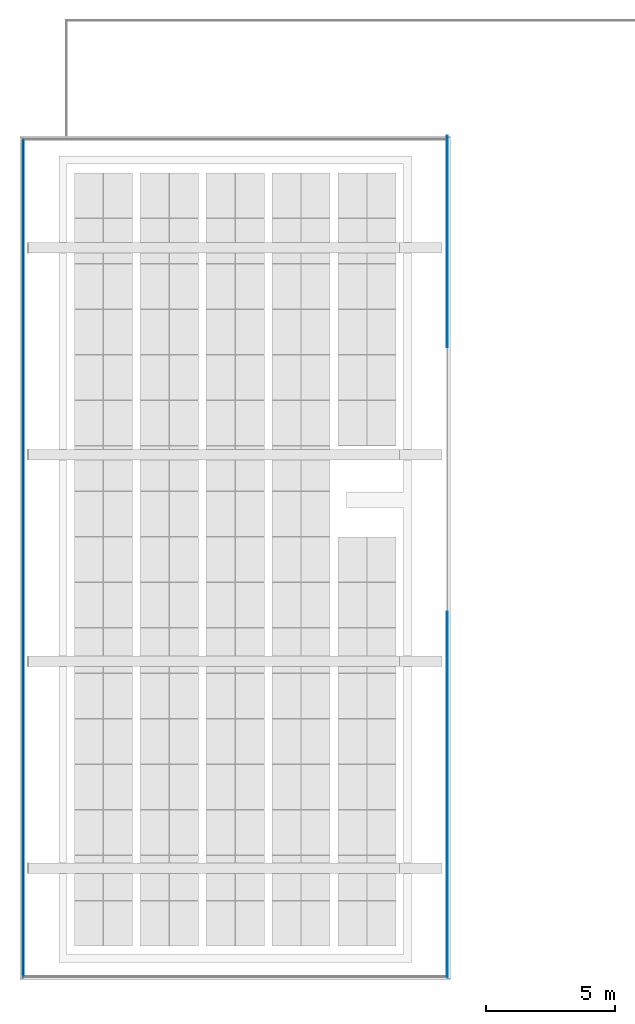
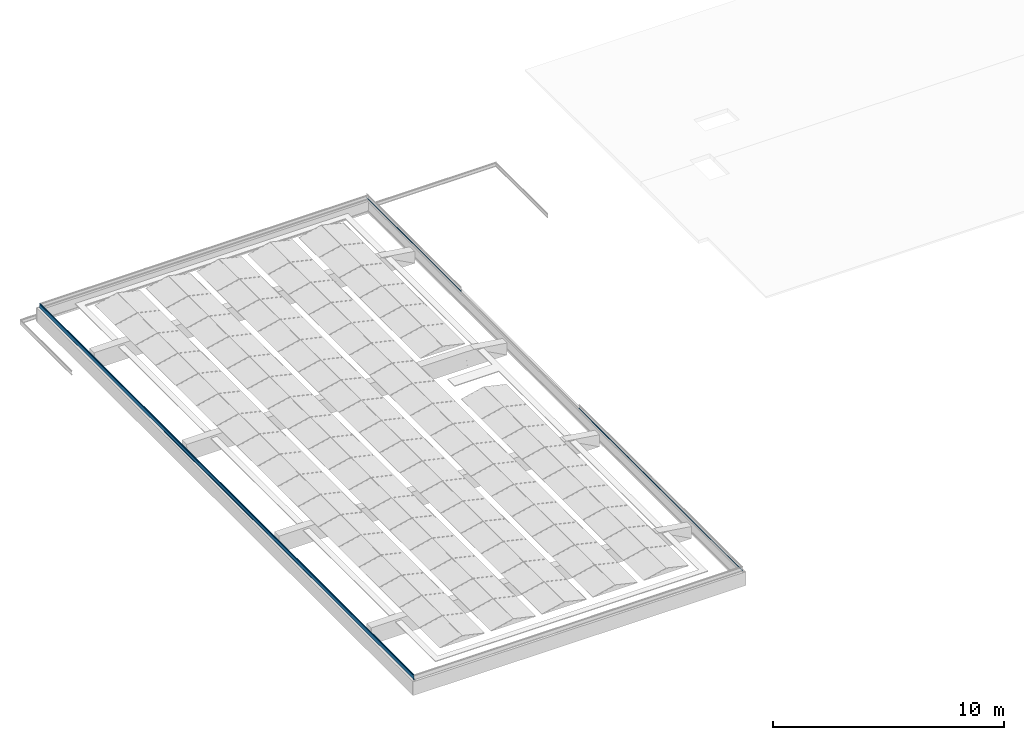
# One storey, part 10 of 25: 5 building element parts, 3 elements without a shape of their own.
"""IFC2X3 building model written with IfcOpenShell, lengths in millimetres."""

from ifc_helpers import new_model, entity, si_unit, converted_unit, derived_unit, money_unit, direction, frame, origin_with_axes, place, context, subcontext, project, spatial, faceted_brep, material, type_object, element, aggregate, save


model = new_model("IFC2X3")

# Units and contexts
model_context = context("Model", 3, precision=0.01, world=origin_with_axes(), true_north=direction((0.0, 1.0)))
body_context = subcontext(model_context, "Body", "Model", "MODEL_VIEW")
ifc_project = project(units=[si_unit("LENGTHUNIT", "METRE", prefix="MILLI"), si_unit("AREAUNIT", "SQUARE_METRE"), si_unit("VOLUMEUNIT", "CUBIC_METRE"), converted_unit("PLANEANGLEUNIT", "DEGREE", entity("IfcPlaneAngleMeasure", 0.0174532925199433), si_unit("PLANEANGLEUNIT", "RADIAN"), dimensions=[0, 0, 0, 0, 0, 0, 0]), money_unit("EUR"), converted_unit("TIMEUNIT", "Year", entity("IfcTimeMeasure", 31557600.0), si_unit("TIMEUNIT", "SECOND"), dimensions=[0, 0, 1, 0, 0, 0, 0]), si_unit("MASSUNIT", "GRAM", prefix="KILO"), si_unit("THERMODYNAMICTEMPERATUREUNIT", "DEGREE_CELSIUS"), si_unit("LUMINOUSINTENSITYUNIT", "LUMEN"), si_unit("ENERGYUNIT", "JOULE", prefix="MEGA"), derived_unit("THERMALCONDUCTANCEUNIT", [(si_unit("POWERUNIT", "WATT"), 1), (si_unit("LENGTHUNIT", "METRE"), -1), (si_unit("THERMODYNAMICTEMPERATUREUNIT", "KELVIN"), -1)]), derived_unit("SPECIFICHEATCAPACITYUNIT", [(si_unit("ENERGYUNIT", "JOULE"), 1), (si_unit("MASSUNIT", "GRAM", prefix="KILO"), -1), (si_unit("THERMODYNAMICTEMPERATUREUNIT", "KELVIN"), -1)]), derived_unit("MASSDENSITYUNIT", [(si_unit("MASSUNIT", "GRAM", prefix="KILO"), 1), (si_unit("VOLUMEUNIT", "CUBIC_METRE"), -1)])], contexts=[model_context])

# Site, building, storey
site_placement = place(None, origin_with_axes())
site = spatial("IfcSite", under=ifc_project, at=site_placement, Name="<site naam>", CompositionType="ELEMENT")
building_placement = place(site_placement, origin_with_axes())
building = spatial("IfcBuilding", under=site, at=building_placement, Name="<Naam gebouw>", CompositionType="ELEMENT")
storey_placement = place(building_placement, frame((0.0, 0.0, 9563.0), z_axis=(0.0, 0.0, 1.0), x_axis=(1.0, 0.0, 0.0)))
storey = spatial("IfcBuildingStorey", under=building, at=storey_placement, Name="03 3e tussenverdieping", CompositionType="ELEMENT", Elevation=9563.0)

# Beam, building element part
beam_type = type_object("IfcBeamType", Name="Aluminium daktrim 45 x 250", PredefinedType="BEAM")
beam_1_placement = place(storey_placement, frame((4335.044465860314, -12327.02502410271, -1057.000005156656), z_axis=(0.0, 0.0, 1.0), x_axis=(1.0, 0.0, 0.0)))
beam_1 = element("IfcBeam", 1, at=beam_1_placement, inside=storey, type_object=beam_type, Name="47_Balk_Aluminium", ObjectType="BEAM")
ifc_material = material(Name="aluminium")
building_element_part_1_placement = place(beam_1_placement, origin_with_axes())
building_element_part_1 = element("IfcBuildingElementPart", 2, at=building_element_part_1_placement, material=ifc_material, Name="aluminium", context=body_context, shape_type="Brep", body=[
    faceted_brep([(-112.0058939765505, 14222.04448901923, 49.56563034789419), (-112.0058939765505, 14222.04448901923, 69.56564503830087), (-112.0058939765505, 112.0058939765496, 69.56564503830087), (-112.0058939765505, 112.0058939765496, 49.56563034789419), (-143.8058874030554, 14222.04448901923, 75.17284186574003), (-113.2058874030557, 14222.04448901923, 49.56563034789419), (-113.2058874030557, 14222.04448901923, 68.55872432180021), (-145.005887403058, 14222.04448901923, 74.16592230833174), (-145.005887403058, 14222.04448901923, 89.56564503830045), (-143.8058874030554, 14222.04448901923, 89.56564503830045), (-143.8058874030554, 143.8058874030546, 75.17284186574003), (-113.2058874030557, 113.2058874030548, 49.56563034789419), (-143.8058874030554, 143.8058874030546, 89.56564503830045), (-145.005887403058, 145.0058874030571, 89.56564503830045), (-145.005887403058, 145.0058874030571, 74.16592230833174), (-113.2058874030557, 113.2058874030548, 68.55872432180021)], [[[0, 1, 2, 3]], [[4, 1, 0, 5, 6, 7, 8, 9]], [[1, 4, 10, 2]], [[11, 3, 2, 10, 12, 13, 14, 15]], [[5, 0, 3, 11]], [[6, 5, 11, 15]], [[7, 6, 15, 14]], [[8, 7, 14, 13]], [[9, 8, 13, 12]], [[4, 9, 12, 10]]]),
    faceted_brep([(-143.8058874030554, 14223.0444943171, 75.17284186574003), (-112.0058939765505, 14223.0444943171, 69.56564503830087), (-112.0058939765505, 14257.0444890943, 69.56564503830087), (-143.8058874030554, 14257.0444890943, 75.17284186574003), (-112.0058939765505, 14223.0444943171, 49.56563034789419), (-143.8058874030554, 14223.0444943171, 89.56564503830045), (-145.005887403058, 14223.0444943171, 89.56564503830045), (-145.005887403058, 14223.0444943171, 74.16592230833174), (-113.2058874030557, 14223.0444943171, 68.55872432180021), (-113.2058874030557, 14223.0444943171, 49.56563034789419), (-112.0058939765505, 14257.0444890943, 49.56563034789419), (-113.2058874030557, 14257.0444890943, 49.56563034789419), (-113.2058874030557, 14257.0444890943, 68.55872432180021), (-145.005887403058, 14257.0444890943, 74.16592230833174), (-145.005887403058, 14257.0444890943, 89.56564503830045), (-143.8058874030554, 14257.0444890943, 89.56564503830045)], [[[0, 1, 2, 3]], [[4, 1, 0, 5, 6, 7, 8, 9]], [[1, 4, 10, 2]], [[2, 10, 11, 12, 13, 14, 15, 3]], [[5, 0, 3, 15]], [[6, 5, 15, 14]], [[7, 6, 14, 13]], [[8, 7, 13, 12]], [[9, 8, 12, 11]], [[4, 9, 11, 10]]]),
])
aggregate(beam_1, [building_element_part_1])

# Beam, building element parts
beam_2_placement = place(storey_placement, frame((-12324.99999757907, 20324.99274332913, -1057.000005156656), z_axis=(0.0, 0.0, 1.0), x_axis=(-1.0, 0.0, 0.0)))
beam_2 = element("IfcBeam", 3, at=beam_2_placement, inside=storey, type_object=beam_type, Name="47_Balk_Aluminium", ObjectType="BEAM")
building_element_part_2_placement = place(beam_2_placement, origin_with_axes())
building_element_part_2 = element("IfcBuildingElementPart", 4, at=building_element_part_2_placement, material=ifc_material, Name="aluminium", context=body_context, shape_type="Brep", body=[
    faceted_brep([(-121.4991945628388, 32530.51857286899, 294.0656451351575), (-122.2068758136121, 32529.81089161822, 293.7721760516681), (-122.2068758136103, 122.2068758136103, 293.7721760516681), (-121.4991945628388, 121.499194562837, 294.0656451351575), (-110.9991946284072, 32541.01857280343, 294.0656451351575), (-110.2920878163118, 32541.72567961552, 293.7727519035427), (-109.9991945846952, 32542.01857284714, 293.0656450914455), (-109.9991945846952, 32542.01857284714, 250.0656451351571), (-110.2920878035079, 32541.72567962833, 249.3585383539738), (-110.9991945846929, 32541.01857284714, 249.0656451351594), (-111.4991731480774, 32540.51859428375, 249.1996073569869), (-117.6977781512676, 32534.31998928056, 252.7781690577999), (-117.9774779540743, 32534.04028947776, 253.1426342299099), (-117.9175736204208, 32534.10019381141, 253.598132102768), (-117.5531500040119, 32534.46461742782, 253.8778860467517), (-117.0976432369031, 32534.92012419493, 253.8180493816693), (-113.8976320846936, 32538.12013534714, 251.9718951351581), (-113.8976320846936, 32538.12013534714, 252.565645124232), (-113.7511854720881, 32538.26658195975, 252.9191985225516), (-113.3976320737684, 32538.62013535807, 253.0656451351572), (-113.1984133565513, 32538.81935407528, 253.0656451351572), (-112.8448599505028, 32539.17290748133, 252.9191985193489), (-112.6984133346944, 32539.31935409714, 252.5656451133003), (-112.6984133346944, 32539.31935409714, 251.278535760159), (-111.9489165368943, 32540.06885089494, 250.8452329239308), (-111.6116899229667, 32540.40607750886, 250.7856033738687), (-111.3150643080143, 32540.70270312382, 250.9567486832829), (-111.1979101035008, 32540.81985732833, 251.278544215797), (-111.1984133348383, 32540.819354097, 281.0656535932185), (-111.3448629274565, 32540.67290450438, 281.419201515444), (-111.6984133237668, 32540.31935410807, 281.5656451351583), (-112.1984133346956, 32539.81935409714, 281.5656451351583), (-112.5519667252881, 32539.46580070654, 281.4191985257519), (-112.6984133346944, 32539.31935409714, 281.0656451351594), (-112.6984133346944, 32539.31935409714, 279.5656451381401), (-112.8448599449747, 32539.17290748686, 279.212091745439), (-113.1984133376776, 32538.81935409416, 279.065645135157), (-114.9718508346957, 32537.04591659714, 279.065645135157), (-120.1773366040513, 32531.84043082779, 275.7461395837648), (-120.3116945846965, 32531.70607284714, 275.4250201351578), (-120.5695070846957, 32531.44826034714, 275.3156451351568), (-120.889819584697, 32531.12794784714, 275.448457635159), (-121.5401955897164, 32530.47757184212, 275.2060759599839), (-121.694507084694, 32530.32326034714, 274.897676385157), (-121.9640383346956, 32530.05372909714, 274.8078326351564), (-122.2726320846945, 32529.74513534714, 274.9640826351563), (-128.1981216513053, 32523.81964578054, 274.066030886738), (-154.6486035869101, 32497.36916384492, 274.0656451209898), (-154.8951277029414, 32497.12263972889, 274.1677553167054), (-154.9972414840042, 32497.02052594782, 274.4142779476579), (-154.8947842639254, 32497.12298316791, 274.6611444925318), (-154.6476320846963, 32497.37013534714, 274.7629107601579), (-149.9991945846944, 32502.01857284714, 275.2648638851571), (-149.698413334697, 32502.31935409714, 275.565645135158), (-147.2999758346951, 32504.71779159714, 275.565645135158), (-146.9991945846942, 32505.01857284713, 275.2648638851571), (-143.9991945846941, 32508.01857284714, 275.2648638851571), (-143.6984133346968, 32508.31935409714, 275.565645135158), (-141.2999758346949, 32510.71779159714, 275.565645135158), (-140.9991945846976, 32511.01857284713, 275.2648638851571), (-137.9991945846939, 32514.01857284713, 275.2648638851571), (-137.6984133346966, 32514.31935409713, 275.565645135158), (-135.2999758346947, 32516.71779159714, 275.565645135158), (-134.9991945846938, 32517.01857284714, 275.2648638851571), (-131.9991945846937, 32520.01857284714, 275.2648638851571), (-131.6984133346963, 32520.31935409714, 275.565645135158), (-129.2999758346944, 32522.71779159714, 275.565645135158), (-128.9991945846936, 32523.01857284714, 275.2648638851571), (-128.1984107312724, 32523.81935670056, 275.2648638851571), (-120.0158638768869, 32532.00190355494, 277.1388822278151), (-113.4645529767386, 32538.55321445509, 282.3873432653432), (-112.6841977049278, 32539.33356972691, 282.7641787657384), (-112.1970030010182, 32539.82076443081, 282.7648658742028), (-111.490808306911, 32540.52695912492, 283.0582564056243), (-111.1984133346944, 32540.81935409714, 283.7648638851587), (-111.1984133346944, 32540.81935409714, 292.3664263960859), (-111.3448599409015, 32540.67290749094, 292.719979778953), (-111.6984133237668, 32540.31935410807, 292.8664263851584), (-120.7999758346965, 32531.21779159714, 292.8664263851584), (-121.153529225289, 32530.86423820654, 292.7199797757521), (-121.2999758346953, 32530.71779159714, 292.3664263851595), (-121.2999758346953, 32530.71779159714, 290.6652544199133), (-121.4748532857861, 32530.54291414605, 290.2428198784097), (-121.897145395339, 32530.1206220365, 290.0675987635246), (-122.3197220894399, 32529.69804534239, 290.2421324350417), (-122.4952867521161, 32529.52248067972, 290.6642818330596), (-122.4991919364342, 32529.5185754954, 293.0640177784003), (-122.4991919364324, 122.4991919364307, 293.0640177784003), (-122.4952867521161, 122.4952867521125, 290.6642818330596), (-122.3197220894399, 122.3197220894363, 290.2421324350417), (-121.8971453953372, 121.8971453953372, 290.0675987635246), (-121.4748532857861, 121.4748532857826, 290.2428198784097), (-121.2999758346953, 121.2999758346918, 290.6652544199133), (-121.2999758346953, 121.2999758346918, 292.3664263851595), (-121.153529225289, 121.1535292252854, 292.7199797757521), (-120.7999758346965, 120.7999758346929, 292.8664263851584), (-111.6984133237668, 111.6984133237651, 292.8664263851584), (-111.3448599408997, 111.3448599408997, 292.719979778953), (-111.1984133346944, 111.1984133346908, 292.3664263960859), (-111.1984133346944, 111.1984133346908, 283.7648638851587), (-111.490808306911, 111.490808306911, 283.0582564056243), (-112.1970030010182, 112.1970030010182, 282.7648658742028), (-112.6841977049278, 112.684197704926, 282.7641787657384), (-113.4645529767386, 113.4645529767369, 282.3873432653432), (-120.0158638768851, 120.0158638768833, 277.1388822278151), (-128.1984107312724, 128.1984107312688, 275.2648638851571), (-128.9991945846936, 128.99919458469, 275.2648638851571), (-129.2999758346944, 129.2999758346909, 275.565645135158), (-131.6984133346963, 131.6984133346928, 275.565645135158), (-131.9991945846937, 131.9991945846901, 275.2648638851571), (-134.9991945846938, 134.9991945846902, 275.2648638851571), (-135.2999758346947, 135.2999758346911, 275.565645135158), (-137.6984133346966, 137.698413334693, 275.565645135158), (-137.9991945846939, 137.9991945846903, 275.2648638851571), (-140.9991945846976, 140.999194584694, 275.2648638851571), (-141.2999758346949, 141.2999758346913, 275.565645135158), (-143.6984133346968, 143.6984133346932, 275.565645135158), (-143.9991945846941, 143.9991945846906, 275.2648638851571), (-146.9991945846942, 146.9991945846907, 275.2648638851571), (-147.2999758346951, 147.2999758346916, 275.565645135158), (-149.698413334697, 149.6984133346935, 275.565645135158), (-149.9991945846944, 149.9991945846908, 275.2648638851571), (-154.6476320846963, 154.6476320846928, 274.7629107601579), (-154.8947842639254, 154.8947842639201, 274.6611444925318), (-154.9972414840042, 154.9972414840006, 274.4142779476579), (-154.8951277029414, 154.8951277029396, 274.1677553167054), (-154.6486035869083, 154.6486035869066, 274.0656451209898), (-128.1981216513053, 128.1981216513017, 274.066030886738), (-122.2726320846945, 122.272632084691, 274.9640826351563), (-121.9640383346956, 121.964038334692, 274.8078326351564), (-121.694507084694, 121.6945070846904, 274.897676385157), (-121.5401955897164, 121.5401955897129, 275.2060759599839), (-120.889819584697, 120.8898195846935, 275.448457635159), (-120.5695070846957, 120.5695070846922, 275.3156451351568), (-120.3116945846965, 120.3116945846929, 275.4250201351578), (-120.1773366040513, 120.1773366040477, 275.7461395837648), (-114.9718508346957, 114.9718508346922, 279.065645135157), (-113.1984133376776, 113.198413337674, 279.065645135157), (-112.8448599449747, 112.8448599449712, 279.212091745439), (-112.6984133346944, 112.6984133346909, 279.5656451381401), (-112.6984133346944, 112.6984133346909, 281.0656451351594), (-112.5519667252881, 112.5519667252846, 281.4191985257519), (-112.1984133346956, 112.198413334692, 281.5656451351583), (-111.6984133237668, 111.6984133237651, 281.5656451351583), (-111.3448629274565, 111.3448629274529, 281.419201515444), (-111.1984133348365, 111.1984133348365, 281.0656535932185), (-111.1979101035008, 111.197910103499, 251.278544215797), (-111.3150643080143, 111.3150643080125, 250.9567486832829), (-111.6116899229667, 111.6116899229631, 250.7856033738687), (-111.9489165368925, 111.9489165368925, 250.8452329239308), (-112.6984133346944, 112.6984133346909, 251.278535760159), (-112.6984133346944, 112.6984133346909, 252.5656451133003), (-112.8448599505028, 112.8448599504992, 252.9191985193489), (-113.1984133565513, 113.1984133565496, 253.0656451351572), (-113.3976320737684, 113.3976320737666, 253.0656451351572), (-113.7511854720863, 113.7511854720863, 252.9191985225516), (-113.8976320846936, 113.8976320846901, 252.565645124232), (-113.8976320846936, 113.8976320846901, 251.9718951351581), (-117.0976432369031, 117.0976432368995, 253.8180493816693), (-117.5531500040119, 117.5531500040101, 253.8778860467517), (-117.917573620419, 117.9175736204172, 253.598132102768), (-117.9774779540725, 117.9774779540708, 253.1426342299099), (-117.6977781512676, 117.697778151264, 252.7781690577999), (-111.4991731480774, 111.4991731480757, 249.1996073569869), (-110.9991945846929, 110.9991945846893, 249.0656451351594), (-110.2920878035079, 110.2920878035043, 249.3585383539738), (-109.9991945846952, 109.9991945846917, 250.0656451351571), (-109.9991945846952, 109.9991945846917, 293.0656450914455), (-110.2920878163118, 110.2920878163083, 293.7727519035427), (-110.9991946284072, 110.9991946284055, 294.0656451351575)], [[[0, 1, 2, 3]], [[0, 4, 5, 6, 7, 8, 9, 10, 11, 12, 13, 14, 15, 16, 17, 18, 19, 20, 21, 22, 23, 24, 25, 26, 27, 28, 29, 30, 31, 32, 33, 34, 35, 36, 37, 38, 39, 40, 41, 42, 43, 44, 45, 46, 47, 48, 49, 50, 51, 52, 53, 54, 55, 56, 57, 58, 59, 60, 61, 62, 63, 64, 65, 66, 67, 68, 69, 70, 71, 72, 73, 74, 75, 76, 77, 78, 79, 80, 81, 82, 83, 84, 85, 86, 1]], [[1, 86, 87, 2]], [[3, 2, 87, 88, 89, 90, 91, 92, 93, 94, 95, 96, 97, 98, 99, 100, 101, 102, 103, 104, 105, 106, 107, 108, 109, 110, 111, 112, 113, 114, 115, 116, 117, 118, 119, 120, 121, 122, 123, 124, 125, 126, 127, 128, 129, 130, 131, 132, 133, 134, 135, 136, 137, 138, 139, 140, 141, 142, 143, 144, 145, 146, 147, 148, 149, 150, 151, 152, 153, 154, 155, 156, 157, 158, 159, 160, 161, 162, 163, 164, 165, 166, 167, 168, 169]], [[4, 0, 3, 169]], [[5, 4, 169, 168]], [[6, 5, 168, 167]], [[7, 6, 167, 166]], [[8, 7, 166, 165]], [[9, 8, 165, 164]], [[10, 9, 164, 163]], [[11, 10, 163, 162]], [[12, 11, 162, 161]], [[13, 12, 161, 160]], [[14, 13, 160, 159]], [[15, 14, 159, 158]], [[16, 15, 158, 157]], [[17, 16, 157, 156]], [[18, 17, 156, 155]], [[19, 18, 155, 154]], [[20, 19, 154, 153]], [[21, 20, 153, 152]], [[22, 21, 152, 151]], [[23, 22, 151, 150]], [[24, 23, 150, 149]], [[25, 24, 149, 148]], [[26, 25, 148, 147]], [[27, 26, 147, 146]], [[28, 27, 146, 145]], [[29, 28, 145, 144]], [[30, 29, 144, 143]], [[31, 30, 143, 142]], [[32, 31, 142, 141]], [[33, 32, 141, 140]], [[34, 33, 140, 139]], [[35, 34, 139, 138]], [[36, 35, 138, 137]], [[37, 36, 137, 136]], [[38, 37, 136, 135]], [[39, 38, 135, 134]], [[40, 39, 134, 133]], [[41, 40, 133, 132]], [[42, 41, 132, 131]], [[43, 42, 131, 130]], [[44, 43, 130, 129]], [[45, 44, 129, 128]], [[46, 45, 128, 127]], [[47, 46, 127, 126]], [[48, 47, 126, 125]], [[49, 48, 125, 124]], [[50, 49, 124, 123]], [[51, 50, 123, 122]], [[52, 51, 122, 121]], [[53, 52, 121, 120]], [[54, 53, 120, 119]], [[55, 54, 119, 118]], [[56, 55, 118, 117]], [[57, 56, 117, 116]], [[58, 57, 116, 115]], [[59, 58, 115, 114]], [[60, 59, 114, 113]], [[61, 60, 113, 112]], [[62, 61, 112, 111]], [[63, 62, 111, 110]], [[64, 63, 110, 109]], [[65, 64, 109, 108]], [[66, 65, 108, 107]], [[67, 66, 107, 106]], [[68, 67, 106, 105]], [[69, 68, 105, 104]], [[70, 69, 104, 103]], [[71, 70, 103, 102]], [[72, 71, 102, 101]], [[73, 72, 101, 100]], [[74, 73, 100, 99]], [[75, 74, 99, 98]], [[76, 75, 98, 97]], [[77, 76, 97, 96]], [[78, 77, 96, 95]], [[79, 78, 95, 94]], [[80, 79, 94, 93]], [[81, 80, 93, 92]], [[82, 81, 92, 91]], [[83, 82, 91, 90]], [[84, 83, 90, 89]], [[85, 84, 89, 88]], [[86, 85, 88, 87]]]),
])
building_element_part_3_placement = place(beam_2_placement, origin_with_axes())
building_element_part_3 = element("IfcBuildingElementPart", 5, at=building_element_part_3_placement, material=ifc_material, Name="aluminium", context=body_context, shape_type="Brep", body=[
    faceted_brep([(-112.0058939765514, 32540.01187345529, 49.56563034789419), (-112.0058939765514, 32540.01187345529, 69.56564503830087), (-112.0058939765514, 112.0058939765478, 69.56564503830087), (-112.0058939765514, 112.0058939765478, 49.56563034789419), (-113.2058874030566, 32538.81188002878, 49.56563034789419), (-113.2058874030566, 32538.81188002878, 68.55872432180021), (-145.0058874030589, 32507.01188002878, 74.16592230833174), (-145.0058874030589, 32507.01188002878, 89.56564503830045), (-143.8058874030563, 32508.21188002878, 89.56564503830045), (-143.8058874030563, 32508.21188002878, 75.17284186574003), (-143.8058874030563, 143.805887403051, 75.17284186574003), (-143.8058874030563, 143.805887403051, 89.56564503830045), (-145.0058874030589, 145.0058874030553, 89.56564503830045), (-145.0058874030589, 145.0058874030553, 74.16592230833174), (-113.2058874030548, 113.2058874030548, 68.55872432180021), (-113.2058874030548, 113.2058874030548, 49.56563034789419)], [[[0, 1, 2, 3]], [[0, 4, 5, 6, 7, 8, 9, 1]], [[1, 9, 10, 2]], [[3, 2, 10, 11, 12, 13, 14, 15]], [[4, 0, 3, 15]], [[5, 4, 15, 14]], [[6, 5, 14, 13]], [[7, 6, 13, 12]], [[8, 7, 12, 11]], [[9, 8, 11, 10]]]),
])
building_element_part_4_placement = place(beam_2_placement, origin_with_axes())
building_element_part_4 = element("IfcBuildingElementPart", 6, at=building_element_part_4_placement, material=ifc_material, Name="aluminium", context=body_context, shape_type="Brep", body=[
    faceted_brep([(-143.0058874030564, 32509.01188002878, 241.8720983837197), (-111.1979101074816, 32540.81985732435, 237.7678423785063), (-111.1979101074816, 111.197910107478, 237.7678423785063), (-143.0058874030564, 143.0058874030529, 241.8720983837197), (-143.0058874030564, 32509.01188002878, 253.0654661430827), (-141.8058874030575, 32510.21188002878, 253.0654661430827), (-141.8058874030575, 32510.21188002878, 243.1686919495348), (-110.0058874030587, 32542.01188002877, 239.0654661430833), (-110.0058874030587, 32542.01188002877, 44.56563661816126), (-115.205887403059, 32536.81188002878, 44.56563661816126), (-115.205887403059, 32536.81188002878, 61.56563661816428), (-114.0058874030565, 32538.01188002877, 61.56563661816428), (-114.0058874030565, 32538.01188002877, 45.7656366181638), (-111.1979101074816, 32540.81985732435, 45.7656366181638), (-111.1979101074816, 111.197910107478, 45.7656366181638), (-114.0058874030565, 114.005887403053, 45.7656366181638), (-114.0058874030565, 114.005887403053, 61.56563661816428), (-115.2058874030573, 115.2058874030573, 61.56563661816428), (-115.2058874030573, 115.2058874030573, 44.56563661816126), (-110.0058874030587, 110.0058874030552, 44.56563661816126), (-110.0058874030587, 110.0058874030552, 239.0654661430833), (-141.8058874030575, 141.8058874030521, 243.1686919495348), (-141.8058874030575, 141.8058874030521, 253.0654661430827), (-143.0058874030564, 143.0058874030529, 253.0654661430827)], [[[0, 1, 2, 3]], [[0, 4, 5, 6, 7, 8, 9, 10, 11, 12, 13, 1]], [[1, 13, 14, 2]], [[3, 2, 14, 15, 16, 17, 18, 19, 20, 21, 22, 23]], [[4, 0, 3, 23]], [[5, 4, 23, 22]], [[6, 5, 22, 21]], [[7, 6, 21, 20]], [[8, 7, 20, 19]], [[9, 8, 19, 18]], [[10, 9, 18, 17]], [[11, 10, 17, 16]], [[12, 11, 16, 15]], [[13, 12, 15, 14]]]),
])
aggregate(beam_2, [building_element_part_2, building_element_part_3, building_element_part_4])

# Beam, building element part
beam_3_placement = place(storey_placement, frame((4335.04446815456, 12159.96567299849, -1057.000005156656), z_axis=(0.0, 0.0, 1.0), x_axis=(1.0, 0.0, 0.0)))
beam_3 = element("IfcBeam", 7, at=beam_3_placement, inside=storey, type_object=beam_type, Name="47_Balk_Aluminium", ObjectType="BEAM")
building_element_part_5_placement = place(beam_3_placement, origin_with_axes())
building_element_part_5 = element("IfcBuildingElementPart", 8, at=building_element_part_5_placement, material=ifc_material, Name="aluminium", context=body_context, shape_type="Brep", body=[
    faceted_brep([(-143.8058874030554, 0.01603068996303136, 75.17284186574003), (-112.0058939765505, 0.01603068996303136, 69.56564503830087), (-112.0058939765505, 8175.034324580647, 69.56564503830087), (-143.8058874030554, 8175.034324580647, 75.17284186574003), (-112.0058939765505, 0.01603068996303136, 49.56563034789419), (-143.8058874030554, 0.01603068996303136, 89.56564503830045), (-145.005887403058, 0.01603068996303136, 89.56564503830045), (-145.005887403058, 0.01603068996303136, 74.16592230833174), (-113.2058874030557, 0.01603068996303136, 68.55872432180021), (-113.2058874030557, 0.01603068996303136, 49.56563034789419), (-112.0058939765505, 8175.034324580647, 49.56563034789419), (-113.2058874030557, 8175.034324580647, 49.56563034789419), (-113.2058874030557, 8175.034324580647, 68.55872432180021), (-145.005887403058, 8175.034324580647, 74.16592230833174), (-145.005887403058, 8175.034324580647, 89.56564503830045), (-143.8058874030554, 8175.034324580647, 89.56564503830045)], [[[0, 1, 2, 3]], [[4, 1, 0, 5, 6, 7, 8, 9]], [[1, 4, 10, 2]], [[2, 10, 11, 12, 13, 14, 15, 3]], [[5, 0, 3, 15]], [[6, 5, 15, 14]], [[7, 6, 14, 13]], [[8, 7, 13, 12]], [[9, 8, 12, 11]], [[4, 9, 11, 10]]]),
])
aggregate(beam_3, [building_element_part_5])

save(model, "model.ifc")
